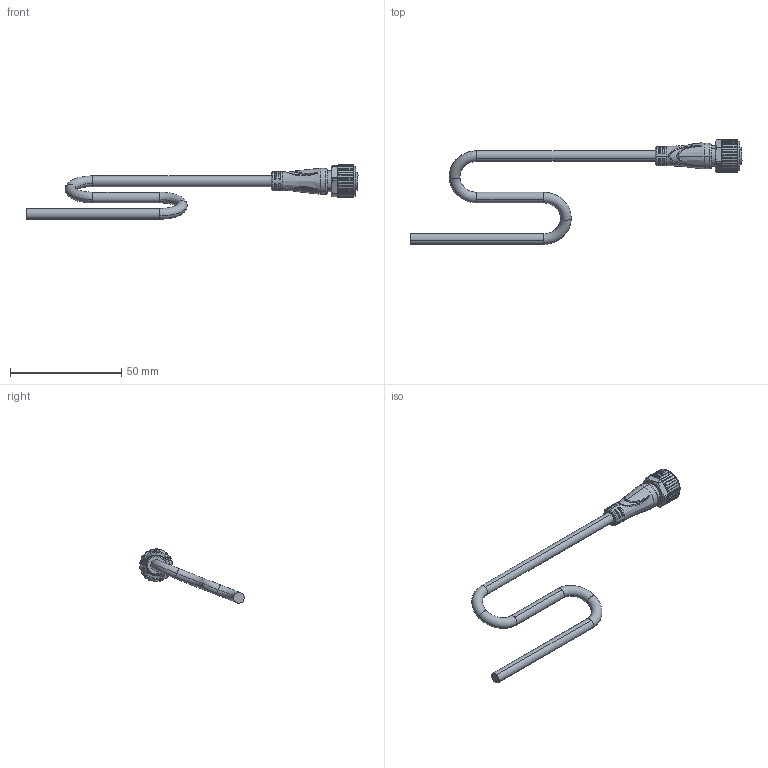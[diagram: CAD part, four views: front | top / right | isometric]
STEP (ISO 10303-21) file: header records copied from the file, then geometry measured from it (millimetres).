
FILE_DESCRIPTION (( 'STEP AP214' ), '1' );
FILE_NAME ('M12眻芛4P譫傷.STEP', '2024-12-20T10:13:40', ( 'Windows User' ), ( 'P R C' ), 'SwSTEP 2.0', 'SolidWorks 2023', '' );
FILE_SCHEMA (( 'AUTOMOTIVE_DESIGN' ));
Length unit declared in the file: millimetre
Products named in the file (6): 导线_φ4.8; M12-0°包胶_M12-5P 直头; SD1100803-M12滚花螺母（内螺纹对边13）-A0; M12直头4P母端; SD1705289-M12母端插针-A1; SD2008750-M12-4P母端插座-B0
Assembly tree (8 placements, depth 2):
  M12直头4P母端
    M12-0°包胶_M12-5P 直头
    SD1100803-M12滚花螺母（内螺纹对边13）-A0
    SD1705289-M12母端插针-A1  x4
    SD2008750-M12-4P母端插座-B0
    导线_φ4.8
Bounding box: 149.05 x 47 x 24.45 mm (x, y, z)
Volume: 7694.6 mm3; surface area: 8006.6 mm2
Topology: 8 solids, 8 shells, 1742 faces, 4702 edges, 2975 vertices
Faces by surface type: plane 672, cylinder 586, bspline 217, cone 215, torus 46, sphere 6
Entity records: 45927 total; most frequent: CARTESIAN_POINT 20832, ORIENTED_EDGE 5696, DIRECTION 4651, EDGE_CURVE 2848, VERTEX_POINT 1814, AXIS2_PLACEMENT_3D 1754, VECTOR 1143, LINE 1143
